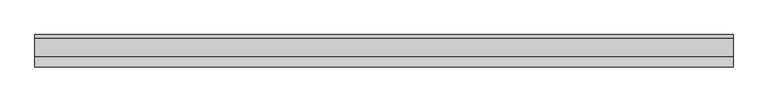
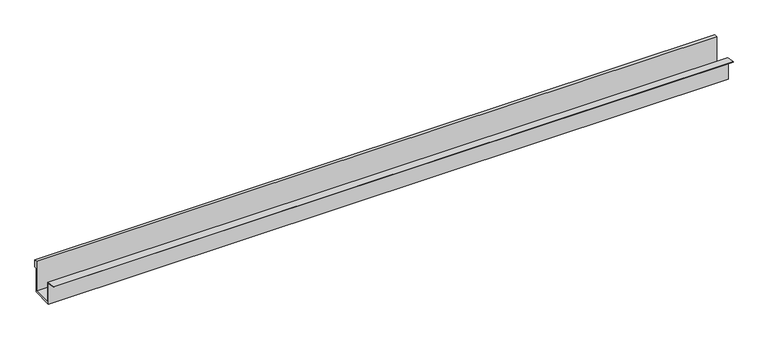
"""IFC4 building model written with IfcOpenShell, lengths in millimetres: proxy geometry, Modelos genéricos 5 : Modelos genéricos 1."""

from ifc_helpers import new_model, si_unit, frame, origin, place, context, project, spatial, polyline, outline, extrude, source, transform, mapped, element, save


def generic_models_4c986af3(model_context):
    return source(origin(), model_context, "Body", "SweptSolid", [
        extrude(outline(polyline([(12733.8417916, 8670.0), (12630.2247475, 8685.5425566), (12630.2247475, 8688.5425566), (12753.8417916, 8670.0), (12753.8417916, 8410.0), (12993.8417916, 8410.0), (12993.8417916, 8810.0), (13033.8417916, 8810.0), (13033.8417916, 8710.0), (13003.8417916, 8710.0), (13003.8417916, 8390.0), (12733.8417916, 8390.0), (12733.8417916, 8670.0)])), frame((-17589.3102966, 0.0, 0.0), z_axis=(1.0, 0.0, 0.0), x_axis=(0.0, 1.0, 0.0)), (0.0, 0.0, 1.0), 8714.6184552),
    ])


if __name__ == "__main__":
    model = new_model("IFC4")
    model_context = context("Model", 3, world=origin())
    ifc_project = project(units=[si_unit("LENGTHUNIT", "METRE", prefix="MILLI")], contexts=[model_context])
    site = spatial("IfcSite", under=ifc_project)
    building = spatial("IfcBuilding", under=site)
    placement = place(None, origin())
    generic_models_shape = generic_models_4c986af3(model_context)
    element("IfcBuildingElementProxy", 1, Name="Modelos genéricos 5 : Modelos genéricos 1", ObjectType="Modelos genéricos 5 : Modelos genéricos 1", at=placement, inside=building, context=model_context, shape_type="MappedRepresentation", body=[
        mapped(generic_models_shape, transform((0.0, 0.0, 0.0), x_axis=(1.0, 0.0, 0.0), y_axis=(0.0, 1.0, 0.0), z_axis=(0.0, 0.0, 1.0))),
    ])
    save(model, "model.ifc")
